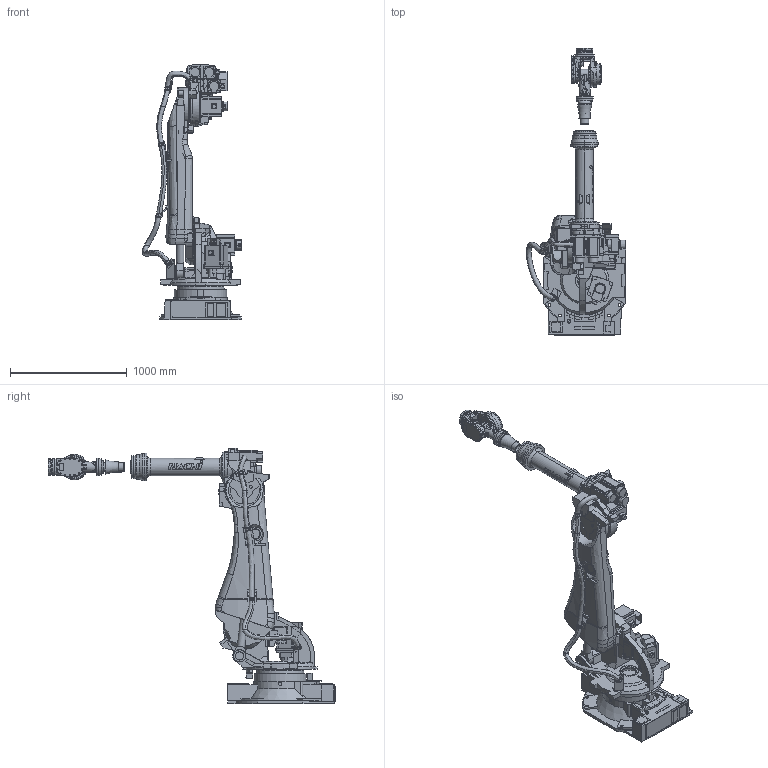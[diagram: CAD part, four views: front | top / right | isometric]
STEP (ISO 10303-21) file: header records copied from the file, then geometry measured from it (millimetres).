
FILE_DESCRIPTION(/* description */ (''),/* implementation_level */ '2;1');
FILE_NAME(/* name */ 'SRA166L-01 Renkli.step',/* time_stamp */ '2022-11-08T12:22:03+03:00',/* author */ (''),/* organization */ (''),/* preprocessor_version */ 'ST-DEVELOPER v19.2',/* originating_system */ 'Autodesk Translation Framework v11.17.0.187',/* authorisation */ '');
FILE_SCHEMA (('AUTOMOTIVE_DESIGN { 1 0 10303 214 3 1 1 }'));
Products named in the file (13): SRA166L-01; SRA166L-01-J0; SRA166L-01-J1; SRA166L-01-J1a; SRA166L-01-J2; SRA166L-01-J2a; SRA166L-01-J3; SRA166L-01-J4; SRA166L-01-J5; SRA166L-01-J6; SRA166L-01_Cable1; SRA166L-01_Cable2; SRA166L-01_Cable3
Assembly tree (12 placements, depth 2):
  SRA166L-01
    SRA166L-01-J0
    SRA166L-01-J1
    SRA166L-01-J1a
    SRA166L-01-J2
    SRA166L-01-J2a
    SRA166L-01-J3
    SRA166L-01-J4
    SRA166L-01-J5
    SRA166L-01-J6
    SRA166L-01_Cable1
    SRA166L-01_Cable2
    SRA166L-01_Cable3
Bounding box: 851.99 x 2465.5 x 2190 mm (x, y, z)
Volume: 239496586 mm3; surface area: 11664119.8 mm2
Topology: 15 solids, 26 shells, 2530 faces, 7060 edges, 4725 vertices
Faces by surface type: plane 1728, cylinder 608, bspline 82, cone 78, torus 26, sphere 8
Full cylindrical faces by diameter (mm): 8.376 x12, 9.7 x2, 10 x2, 11 x14, 12 x3, 20 x3, 22 x8, 25 x1, 26 x8, 30 x4, 32 x1, 32.5 x2, 34 x2, 35 x6, 39.8 x1, 39.801 x1, 40 x4, 42 x2, 42.2 x1, 44 x2, 48.5 x1, 50 x1, 54 x3, 55.5 x2, 56 x1, 60 x4, 65 x1, 70 x2, 72 x1, 74 x1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
Entity records: 103768 total; most frequent: CARTESIAN_POINT 37304, ORIENTED_EDGE 14082, DIRECTION 13157, EDGE_CURVE 7041, LINE 4743, VECTOR 4743, VERTEX_POINT 4725, AXIS2_PLACEMENT_3D 4207
